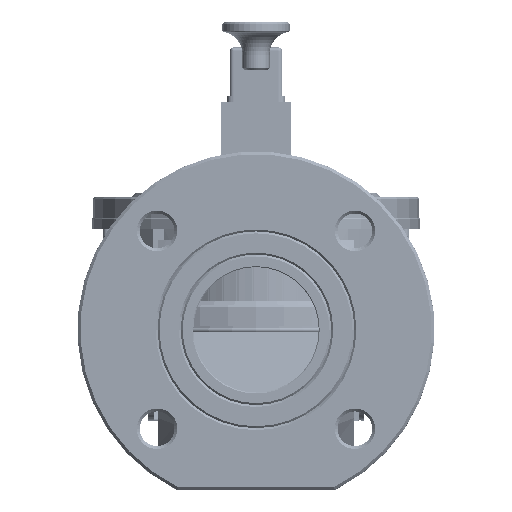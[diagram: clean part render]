
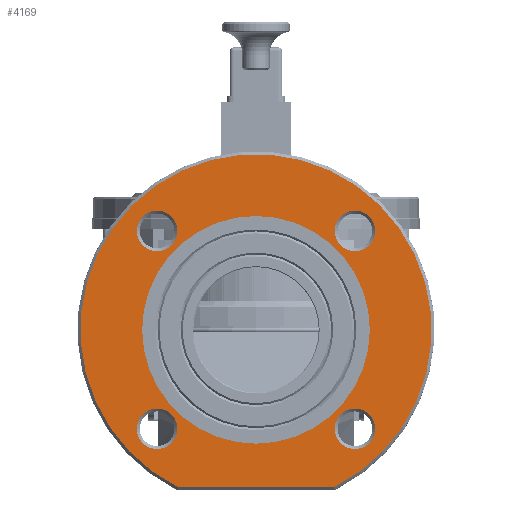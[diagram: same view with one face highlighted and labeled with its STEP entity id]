
A CAD part, front view. The second image highlights one B-rep face of the part: STEP entity #4169.
In plain terms, the highlighted planar face has unit normal (0, -1, 0).
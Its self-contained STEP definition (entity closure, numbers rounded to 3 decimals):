
#4169 = ADVANCED_FACE( '', ( #6066, #6067, #6068, #6069, #6070, #6071 ), #6072, .T. );
#6066 = FACE_BOUND( '', #9112, .T. );
#6067 = FACE_BOUND( '', #9113, .T. );
#6068 = FACE_BOUND( '', #9114, .T. );
#6069 = FACE_BOUND( '', #9115, .T. );
#6070 = FACE_OUTER_BOUND( '', #9116, .T. );
#6071 = FACE_BOUND( '', #9117, .T. );
#6072 = PLANE( '', #9118 );
#9112 = EDGE_LOOP( '', ( #17848 ) );
#9113 = EDGE_LOOP( '', ( #17849 ) );
#9114 = EDGE_LOOP( '', ( #17850 ) );
#9115 = EDGE_LOOP( '', ( #17851 ) );
#9116 = EDGE_LOOP( '', ( #17852, #17853 ) );
#9117 = EDGE_LOOP( '', ( #17854 ) );
#9118 = AXIS2_PLACEMENT_3D( '', #17855, #17856, #17857 );
#17848 = ORIENTED_EDGE( '', *, *, #23121, .T. );
#17849 = ORIENTED_EDGE( '', *, *, #23122, .T. );
#17850 = ORIENTED_EDGE( '', *, *, #23123, .T. );
#17851 = ORIENTED_EDGE( '', *, *, #23124, .T. );
#17852 = ORIENTED_EDGE( '', *, *, #23026, .T. );
#17853 = ORIENTED_EDGE( '', *, *, #23028, .T. );
#17854 = ORIENTED_EDGE( '', *, *, #23037, .F. );
#17855 = CARTESIAN_POINT( '', ( 0., -133., 59. ) );
#17856 = DIRECTION( '', ( 0., -1., 0. ) );
#17857 = DIRECTION( '', ( 0., 0., -1. ) );
#23026 = EDGE_CURVE( '', #26016, #26014, #26017, .T. );
#23028 = EDGE_CURVE( '', #26014, #26016, #26019, .T. );
#23037 = EDGE_CURVE( '', #26036, #26036, #26037, .T. );
#23121 = EDGE_CURVE( '', #26163, #26163, #26164, .F. );
#23122 = EDGE_CURVE( '', #26165, #26165, #26166, .F. );
#23123 = EDGE_CURVE( '', #26167, #26167, #26168, .F. );
#23124 = EDGE_CURVE( '', #26169, #26169, #26170, .F. );
#26014 = VERTEX_POINT( '', #31269 );
#26016 = VERTEX_POINT( '', #31274 );
#26017 = CIRCLE( '', #31275, 91. );
#26019 = LINE( '', #31280, #31281 );
#26036 = VERTEX_POINT( '', #31298 );
#26037 = CIRCLE( '', #31299, 59. );
#26163 = VERTEX_POINT( '', #31613 );
#26164 = CIRCLE( '', #31614, 10.5 );
#26165 = VERTEX_POINT( '', #31615 );
#26166 = CIRCLE( '', #31616, 10.5 );
#26167 = VERTEX_POINT( '', #31617 );
#26168 = CIRCLE( '', #31618, 10.5 );
#26169 = VERTEX_POINT( '', #31619 );
#26170 = CIRCLE( '', #31620, 10.5 );
#31269 = CARTESIAN_POINT( '', ( -40.481, -133., -81.5 ) );
#31274 = CARTESIAN_POINT( '', ( 40.481, -133., -81.5 ) );
#31275 = AXIS2_PLACEMENT_3D( '', #37113, #37114, #37115 );
#31280 = CARTESIAN_POINT( '', ( 0., -133., -81.5 ) );
#31281 = VECTOR( '', #37116, 1000. );
#31298 = CARTESIAN_POINT( '', ( 0., -133., -59. ) );
#31299 = AXIS2_PLACEMENT_3D( '', #37141, #37142, #37143 );
#31613 = CARTESIAN_POINT( '', ( -51.265, -133., -61.765 ) );
#31614 = AXIS2_PLACEMENT_3D( '', #37303, #37304, #37305 );
#31615 = CARTESIAN_POINT( '', ( 51.265, -133., -61.765 ) );
#31616 = AXIS2_PLACEMENT_3D( '', #37306, #37307, #37308 );
#31617 = CARTESIAN_POINT( '', ( 51.265, -133., 40.765 ) );
#31618 = AXIS2_PLACEMENT_3D( '', #37309, #37310, #37311 );
#31619 = CARTESIAN_POINT( '', ( -51.265, -133., 40.765 ) );
#31620 = AXIS2_PLACEMENT_3D( '', #37312, #37313, #37314 );
#37113 = CARTESIAN_POINT( '', ( 0., -133., 0. ) );
#37114 = DIRECTION( '', ( 0., -1., 0. ) );
#37115 = DIRECTION( '', ( 0., 0., -1. ) );
#37116 = DIRECTION( '', ( 1., 0., 0. ) );
#37141 = CARTESIAN_POINT( '', ( 0., -133., 0. ) );
#37142 = DIRECTION( '', ( 0., -1., 0. ) );
#37143 = DIRECTION( '', ( 0., 0., -1. ) );
#37303 = CARTESIAN_POINT( '', ( -51.265, -133., -51.265 ) );
#37304 = DIRECTION( '', ( 0., -1., 0. ) );
#37305 = DIRECTION( '', ( 0., 0., -1. ) );
#37306 = CARTESIAN_POINT( '', ( 51.265, -133., -51.265 ) );
#37307 = DIRECTION( '', ( 0., -1., 0. ) );
#37308 = DIRECTION( '', ( 0., 0., -1. ) );
#37309 = CARTESIAN_POINT( '', ( 51.265, -133., 51.265 ) );
#37310 = DIRECTION( '', ( 0., -1., 0. ) );
#37311 = DIRECTION( '', ( 0., 0., -1. ) );
#37312 = CARTESIAN_POINT( '', ( -51.265, -133., 51.265 ) );
#37313 = DIRECTION( '', ( 0., -1., 0. ) );
#37314 = DIRECTION( '', ( 0., 0., -1. ) );
